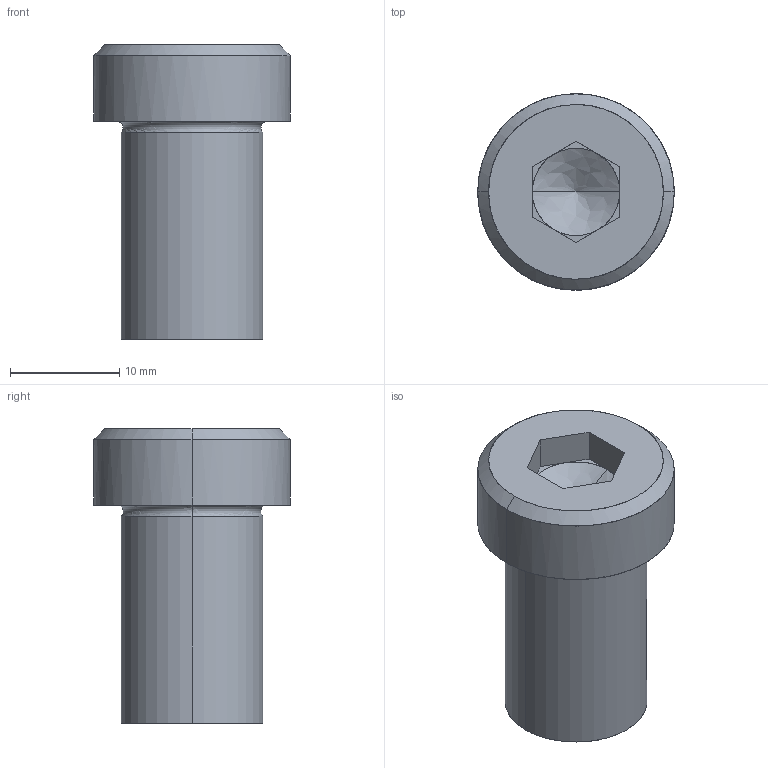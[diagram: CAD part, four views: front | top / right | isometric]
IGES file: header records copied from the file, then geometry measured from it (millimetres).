
Global section: file name: E:\UnigraphicsGraphicData\MISUMI_PRESS-PARTS\IGES\3d_sbtcn13-20_05156_r00.igs; native system: NX V5.0; preprocessor: UGS NX IGES V5.0; author: MISUMI; date: 20110105.162453; units: millimetre
Bounding box: 18 x 18 x 27 mm (x, y, z)
Surface area: 2204.2 mm2 (no closed solid volume)
Topology: 0 solids, 0 shells, 34 faces, 186 edges, 182 vertices
Faces by surface type: bspline 34
